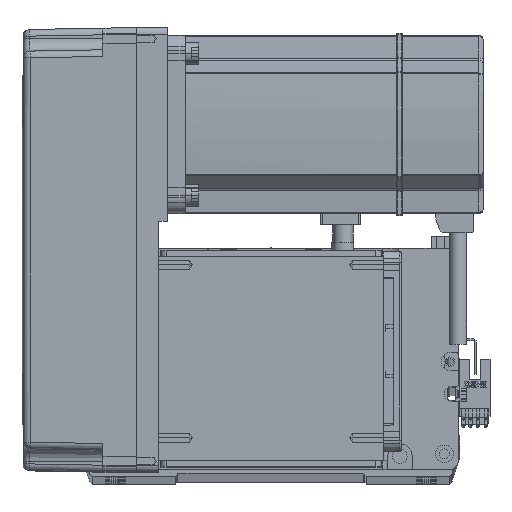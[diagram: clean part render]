
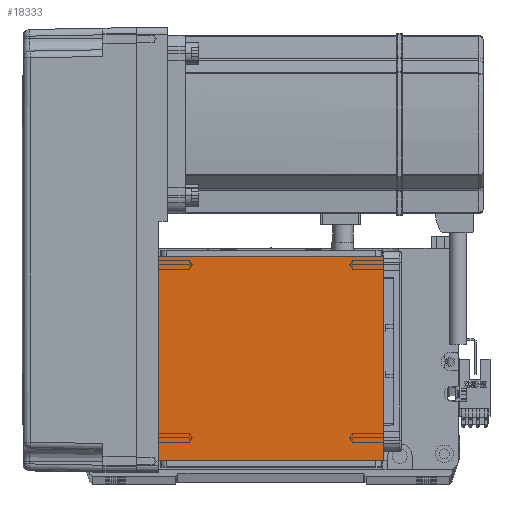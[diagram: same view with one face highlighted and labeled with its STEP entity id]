
A CAD part, top view. The second image highlights one B-rep face of the part: STEP entity #18333.
In plain terms, the highlighted planar face has unit normal (0, 0, 1).
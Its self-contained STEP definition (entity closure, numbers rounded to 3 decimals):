
#1380 = VECTOR ( 'NONE', #61556, 1000. ) ;
#5399 = VECTOR ( 'NONE', #27219, 1000. ) ;
#5962 = ORIENTED_EDGE ( 'NONE', *, *, #19540, .F. ) ;
#6926 = VERTEX_POINT ( 'NONE', #59392 ) ;
#8947 = LINE ( 'NONE', #38332, #1380 ) ;
#13217 = CARTESIAN_POINT ( 'NONE',  ( -70.004, 111.5, 115. ) ) ;
#15552 = DIRECTION ( 'NONE',  ( 1., 0., 0. ) ) ;
#15741 = VECTOR ( 'NONE', #22133, 1000. ) ;
#16743 = LINE ( 'NONE', #13217, #5399 ) ;
#17271 = FACE_OUTER_BOUND ( 'NONE', #59186, .T. ) ;
#18081 = LINE ( 'NONE', #60479, #15741 ) ;
#18333 = ADVANCED_FACE ( 'NONE', ( #17271 ), #19169, .T. ) ;
#19169 = PLANE ( 'NONE',  #54479 ) ;
#19540 = EDGE_CURVE ( 'NONE', #44460, #34794, #27716, .T. ) ;
#20597 = DIRECTION ( 'NONE',  ( 0., 0., 1. ) ) ;
#20622 = ORIENTED_EDGE ( 'NONE', *, *, #54394, .F. ) ;
#21480 = VERTEX_POINT ( 'NONE', #30013 ) ;
#22133 = DIRECTION ( 'NONE',  ( 0., 1., 0. ) ) ;
#26802 = DIRECTION ( 'NONE',  ( -1., 0., 0. ) ) ;
#27219 = DIRECTION ( 'NONE',  ( 1., 0., 0. ) ) ;
#27716 = LINE ( 'NONE', #50936, #43667 ) ;
#27841 = CARTESIAN_POINT ( 'NONE',  ( -50.5, 20., 115. ) ) ;
#30013 = CARTESIAN_POINT ( 'NONE',  ( 50.5, 111.5, 115. ) ) ;
#34794 = VERTEX_POINT ( 'NONE', #27841 ) ;
#34956 = ORIENTED_EDGE ( 'NONE', *, *, #41141, .T. ) ;
#38332 = CARTESIAN_POINT ( 'NONE',  ( -50.5, 122., 115. ) ) ;
#41141 = EDGE_CURVE ( 'NONE', #44460, #21480, #18081, .T. ) ;
#43667 = VECTOR ( 'NONE', #26802, 1000. ) ;
#44460 = VERTEX_POINT ( 'NONE', #49302 ) ;
#46149 = EDGE_CURVE ( 'NONE', #6926, #34794, #8947, .T. ) ;
#49302 = CARTESIAN_POINT ( 'NONE',  ( 50.5, 20., 115. ) ) ;
#49627 = CARTESIAN_POINT ( 'NONE',  ( 0., 0., 115. ) ) ;
#50936 = CARTESIAN_POINT ( 'NONE',  ( -70.004, 20., 115. ) ) ;
#54394 = EDGE_CURVE ( 'NONE', #6926, #21480, #16743, .T. ) ;
#54479 = AXIS2_PLACEMENT_3D ( 'NONE', #49627, #20597, #15552 ) ;
#58631 = ORIENTED_EDGE ( 'NONE', *, *, #46149, .T. ) ;
#59186 = EDGE_LOOP ( 'NONE', ( #20622, #58631, #5962, #34956 ) ) ;
#59392 = CARTESIAN_POINT ( 'NONE',  ( -50.5, 111.5, 115. ) ) ;
#60479 = CARTESIAN_POINT ( 'NONE',  ( 50.5, 122., 115. ) ) ;
#61556 = DIRECTION ( 'NONE',  ( 0., -1., 0. ) ) ;
